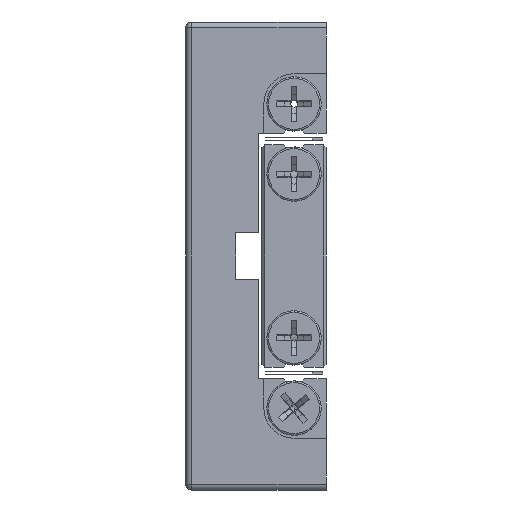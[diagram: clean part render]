
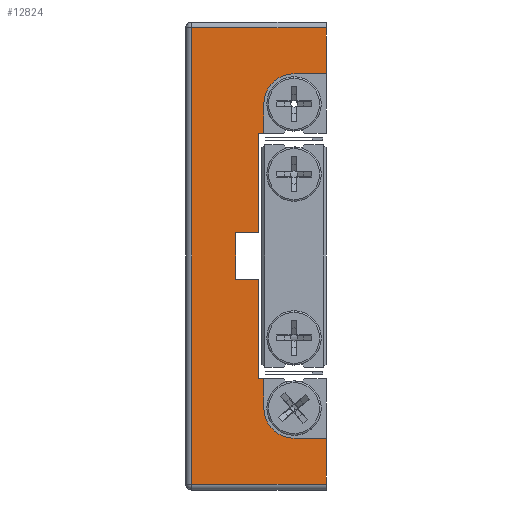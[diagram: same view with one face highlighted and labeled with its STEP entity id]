
A CAD part, left-side view. The second image highlights one B-rep face of the part: STEP entity #12824.
In plain terms, the highlighted planar face has unit normal (-1, 0, 0).
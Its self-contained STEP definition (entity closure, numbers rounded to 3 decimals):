
#278 = CARTESIAN_POINT ( 'NONE',  ( -173.206, 10.274, -39. ) ) ;
#481 = DIRECTION ( 'NONE',  ( 0., 0., 1. ) ) ;
#539 = VECTOR ( 'NONE', #22417, 1000. ) ;
#778 = DIRECTION ( 'NONE',  ( 0., 0., -1. ) ) ;
#809 = VECTOR ( 'NONE', #481, 1000. ) ;
#1328 = CARTESIAN_POINT ( 'NONE',  ( -173.206, -12.726, 39. ) ) ;
#1385 = CARTESIAN_POINT ( 'NONE',  ( -173.206, -7.226, 31.15 ) ) ;
#1420 = AXIS2_PLACEMENT_3D ( 'NONE', #27380, #14004, #778 ) ;
#1579 = CARTESIAN_POINT ( 'NONE',  ( -173.206, -1.226, 21. ) ) ;
#1613 = ORIENTED_EDGE ( 'NONE', *, *, #18636, .T. ) ;
#1706 = ORIENTED_EDGE ( 'NONE', *, *, #1951, .T. ) ;
#1920 = DIRECTION ( 'NONE',  ( 0., 0., -1. ) ) ;
#1951 = EDGE_CURVE ( 'NONE', #23472, #8976, #27449, .T. ) ;
#2130 = VERTEX_POINT ( 'NONE', #13354 ) ;
#2259 = VERTEX_POINT ( 'NONE', #24620 ) ;
#2373 = EDGE_CURVE ( 'NONE', #13564, #17622, #28829, .T. ) ;
#2433 = CARTESIAN_POINT ( 'NONE',  ( -173.206, -1.226, -4. ) ) ;
#2962 = ORIENTED_EDGE ( 'NONE', *, *, #16166, .F. ) ;
#3288 = ORIENTED_EDGE ( 'NONE', *, *, #4165, .F. ) ;
#3422 = DIRECTION ( 'NONE',  ( 0., -1., 0. ) ) ;
#3430 = ORIENTED_EDGE ( 'NONE', *, *, #18311, .F. ) ;
#3656 = CARTESIAN_POINT ( 'NONE',  ( -173.206, -12.726, -21. ) ) ;
#3875 = VECTOR ( 'NONE', #8364, 1000. ) ;
#4165 = EDGE_CURVE ( 'NONE', #8463, #8884, #10881, .T. ) ;
#4354 = CIRCLE ( 'NONE', #1420, 5.15 ) ;
#4627 = EDGE_CURVE ( 'NONE', #8976, #7623, #20021, .T. ) ;
#4822 = VERTEX_POINT ( 'NONE', #20349 ) ;
#5040 = VECTOR ( 'NONE', #12671, 1000. ) ;
#5165 = CARTESIAN_POINT ( 'NONE',  ( -173.206, -7.226, -26. ) ) ;
#5355 = ORIENTED_EDGE ( 'NONE', *, *, #8751, .T. ) ;
#5428 = LINE ( 'NONE', #23209, #21071 ) ;
#5674 = LINE ( 'NONE', #3656, #10828 ) ;
#5851 = DIRECTION ( 'NONE',  ( 0., -1., 0. ) ) ;
#6129 = CARTESIAN_POINT ( 'NONE',  ( -173.206, -2.076, 26. ) ) ;
#6218 = CARTESIAN_POINT ( 'NONE',  ( -173.206, -12.726, 31.15 ) ) ;
#6389 = LINE ( 'NONE', #2433, #539 ) ;
#6627 = LINE ( 'NONE', #1385, #23701 ) ;
#6666 = LINE ( 'NONE', #27076, #809 ) ;
#6713 = CARTESIAN_POINT ( 'NONE',  ( -173.206, 2.774, 4. ) ) ;
#6716 = CARTESIAN_POINT ( 'NONE',  ( -173.206, -2.076, -26. ) ) ;
#6737 = EDGE_CURVE ( 'NONE', #27540, #10379, #18627, .T. ) ;
#6793 = VECTOR ( 'NONE', #7093, 1000. ) ;
#7004 = AXIS2_PLACEMENT_3D ( 'NONE', #5165, #20725, #7394 ) ;
#7029 = VERTEX_POINT ( 'NONE', #17195 ) ;
#7093 = DIRECTION ( 'NONE',  ( 0., 1., 0. ) ) ;
#7273 = VERTEX_POINT ( 'NONE', #22596 ) ;
#7394 = DIRECTION ( 'NONE',  ( 0., 0., 1. ) ) ;
#7492 = EDGE_CURVE ( 'NONE', #8884, #13564, #5674, .T. ) ;
#7623 = VERTEX_POINT ( 'NONE', #19852 ) ;
#7732 = LINE ( 'NONE', #23444, #23419 ) ;
#7738 = ORIENTED_EDGE ( 'NONE', *, *, #20926, .F. ) ;
#7864 = CARTESIAN_POINT ( 'NONE',  ( -173.206, -7.226, 31.15 ) ) ;
#7942 = EDGE_CURVE ( 'NONE', #27906, #7029, #7732, .T. ) ;
#8281 = VECTOR ( 'NONE', #14310, 1000. ) ;
#8289 = ORIENTED_EDGE ( 'NONE', *, *, #2373, .F. ) ;
#8364 = DIRECTION ( 'NONE',  ( 0., 0., -1. ) ) ;
#8463 = VERTEX_POINT ( 'NONE', #21342 ) ;
#8572 = DIRECTION ( 'NONE',  ( 1., 0., 0. ) ) ;
#8751 = EDGE_CURVE ( 'NONE', #7029, #2130, #6666, .T. ) ;
#8884 = VERTEX_POINT ( 'NONE', #14284 ) ;
#8976 = VERTEX_POINT ( 'NONE', #1328 ) ;
#8995 = CARTESIAN_POINT ( 'NONE',  ( -173.206, -2.076, 26. ) ) ;
#9103 = EDGE_CURVE ( 'NONE', #16726, #27540, #21576, .T. ) ;
#10379 = VERTEX_POINT ( 'NONE', #1579 ) ;
#10795 = CARTESIAN_POINT ( 'NONE',  ( -173.206, 11.274, 39. ) ) ;
#10828 = VECTOR ( 'NONE', #5851, 1000. ) ;
#10881 = LINE ( 'NONE', #15272, #5040 ) ;
#11042 = DIRECTION ( 'NONE',  ( 0., 0., -1. ) ) ;
#11112 = DIRECTION ( 'NONE',  ( 0., 1., 0. ) ) ;
#12014 = EDGE_CURVE ( 'NONE', #4822, #8463, #6389, .T. ) ;
#12034 = DIRECTION ( 'NONE',  ( 0., 0., -1. ) ) ;
#12608 = VECTOR ( 'NONE', #24776, 1000. ) ;
#12637 = VECTOR ( 'NONE', #11042, 1000. ) ;
#12671 = DIRECTION ( 'NONE',  ( 0., 0., -1. ) ) ;
#12805 = EDGE_CURVE ( 'NONE', #10379, #26849, #23788, .T. ) ;
#12824 = ADVANCED_FACE ( 'NONE', ( #28291 ), #15205, .F. ) ;
#12842 = ORIENTED_EDGE ( 'NONE', *, *, #4627, .T. ) ;
#13354 = CARTESIAN_POINT ( 'NONE',  ( -173.206, -12.726, -31.15 ) ) ;
#13515 = EDGE_LOOP ( 'NONE', ( #1613, #22179, #5355, #24250, #7738, #8289, #26178, #3288, #22315, #3430, #2962, #18847, #22047, #26749, #13740, #16115, #1706, #12842 ) ) ;
#13564 = VERTEX_POINT ( 'NONE', #13853 ) ;
#13740 = ORIENTED_EDGE ( 'NONE', *, *, #19001, .F. ) ;
#13853 = CARTESIAN_POINT ( 'NONE',  ( -173.206, -2.076, -21. ) ) ;
#14004 = DIRECTION ( 'NONE',  ( -1., 0., 0. ) ) ;
#14022 = CARTESIAN_POINT ( 'NONE',  ( -173.206, -12.726, -40. ) ) ;
#14284 = CARTESIAN_POINT ( 'NONE',  ( -173.206, -1.226, -21. ) ) ;
#14310 = DIRECTION ( 'NONE',  ( 0., 0., 1. ) ) ;
#14752 = DIRECTION ( 'NONE',  ( 0., 1., 0. ) ) ;
#15205 = PLANE ( 'NONE',  #22933 ) ;
#15272 = CARTESIAN_POINT ( 'NONE',  ( -173.206, -1.226, -21. ) ) ;
#15418 = DIRECTION ( 'NONE',  ( 0., -1., 0. ) ) ;
#16115 = ORIENTED_EDGE ( 'NONE', *, *, #27327, .F. ) ;
#16166 = EDGE_CURVE ( 'NONE', #26849, #7273, #26413, .T. ) ;
#16726 = VERTEX_POINT ( 'NONE', #8995 ) ;
#17142 = CARTESIAN_POINT ( 'NONE',  ( -173.206, -1.226, 4. ) ) ;
#17195 = CARTESIAN_POINT ( 'NONE',  ( -173.206, -12.726, -39. ) ) ;
#17622 = VERTEX_POINT ( 'NONE', #6716 ) ;
#17873 = CIRCLE ( 'NONE', #7004, 5.15 ) ;
#18311 = EDGE_CURVE ( 'NONE', #7273, #4822, #5428, .T. ) ;
#18627 = LINE ( 'NONE', #22434, #12608 ) ;
#18636 = EDGE_CURVE ( 'NONE', #7623, #27906, #24554, .T. ) ;
#18847 = ORIENTED_EDGE ( 'NONE', *, *, #12805, .F. ) ;
#19001 = EDGE_CURVE ( 'NONE', #24875, #16726, #4354, .T. ) ;
#19852 = CARTESIAN_POINT ( 'NONE',  ( -173.206, 10.274, 39. ) ) ;
#20021 = LINE ( 'NONE', #10795, #6793 ) ;
#20349 = CARTESIAN_POINT ( 'NONE',  ( -173.206, 2.774, -4. ) ) ;
#20499 = VECTOR ( 'NONE', #11112, 1000. ) ;
#20725 = DIRECTION ( 'NONE',  ( -1., 0., 0. ) ) ;
#20926 = EDGE_CURVE ( 'NONE', #17622, #2259, #17873, .T. ) ;
#21071 = VECTOR ( 'NONE', #12034, 1000. ) ;
#21342 = CARTESIAN_POINT ( 'NONE',  ( -173.206, -1.226, -4. ) ) ;
#21486 = VECTOR ( 'NONE', #24656, 1000. ) ;
#21576 = LINE ( 'NONE', #6129, #3875 ) ;
#21911 = CARTESIAN_POINT ( 'NONE',  ( -173.206, 11.274, -40. ) ) ;
#22047 = ORIENTED_EDGE ( 'NONE', *, *, #6737, .F. ) ;
#22179 = ORIENTED_EDGE ( 'NONE', *, *, #7942, .T. ) ;
#22315 = ORIENTED_EDGE ( 'NONE', *, *, #12014, .F. ) ;
#22417 = DIRECTION ( 'NONE',  ( 0., -1., 0. ) ) ;
#22434 = CARTESIAN_POINT ( 'NONE',  ( -173.206, -1.226, 21. ) ) ;
#22596 = CARTESIAN_POINT ( 'NONE',  ( -173.206, 2.774, 4. ) ) ;
#22657 = CARTESIAN_POINT ( 'NONE',  ( -173.206, -2.076, -26. ) ) ;
#22701 = CARTESIAN_POINT ( 'NONE',  ( -173.206, -2.076, 21. ) ) ;
#22933 = AXIS2_PLACEMENT_3D ( 'NONE', #21911, #8572, #24173 ) ;
#23067 = VECTOR ( 'NONE', #1920, 1000. ) ;
#23209 = CARTESIAN_POINT ( 'NONE',  ( -173.206, 2.774, -4. ) ) ;
#23419 = VECTOR ( 'NONE', #3422, 1000. ) ;
#23444 = CARTESIAN_POINT ( 'NONE',  ( -173.206, 11.274, -39. ) ) ;
#23472 = VERTEX_POINT ( 'NONE', #6218 ) ;
#23701 = VECTOR ( 'NONE', #14752, 1000. ) ;
#23788 = LINE ( 'NONE', #28551, #23067 ) ;
#24173 = DIRECTION ( 'NONE',  ( 0., 0., -1. ) ) ;
#24250 = ORIENTED_EDGE ( 'NONE', *, *, #26022, .F. ) ;
#24284 = CARTESIAN_POINT ( 'NONE',  ( -173.206, -7.226, -31.15 ) ) ;
#24554 = LINE ( 'NONE', #26586, #12637 ) ;
#24620 = CARTESIAN_POINT ( 'NONE',  ( -173.206, -7.226, -31.15 ) ) ;
#24656 = DIRECTION ( 'NONE',  ( 0., 0., -1. ) ) ;
#24776 = DIRECTION ( 'NONE',  ( 0., 1., 0. ) ) ;
#24875 = VERTEX_POINT ( 'NONE', #7864 ) ;
#26022 = EDGE_CURVE ( 'NONE', #2259, #2130, #28081, .T. ) ;
#26178 = ORIENTED_EDGE ( 'NONE', *, *, #7492, .F. ) ;
#26413 = LINE ( 'NONE', #6713, #20499 ) ;
#26586 = CARTESIAN_POINT ( 'NONE',  ( -173.206, 10.274, -40. ) ) ;
#26749 = ORIENTED_EDGE ( 'NONE', *, *, #9103, .F. ) ;
#26849 = VERTEX_POINT ( 'NONE', #17142 ) ;
#27076 = CARTESIAN_POINT ( 'NONE',  ( -173.206, -12.726, -40. ) ) ;
#27327 = EDGE_CURVE ( 'NONE', #23472, #24875, #6627, .T. ) ;
#27380 = CARTESIAN_POINT ( 'NONE',  ( -173.206, -7.226, 26. ) ) ;
#27394 = VECTOR ( 'NONE', #15418, 1000. ) ;
#27449 = LINE ( 'NONE', #14022, #8281 ) ;
#27540 = VERTEX_POINT ( 'NONE', #22701 ) ;
#27906 = VERTEX_POINT ( 'NONE', #278 ) ;
#28081 = LINE ( 'NONE', #24284, #27394 ) ;
#28291 = FACE_OUTER_BOUND ( 'NONE', #13515, .T. ) ;
#28551 = CARTESIAN_POINT ( 'NONE',  ( -173.206, -1.226, 4. ) ) ;
#28829 = LINE ( 'NONE', #22657, #21486 ) ;
